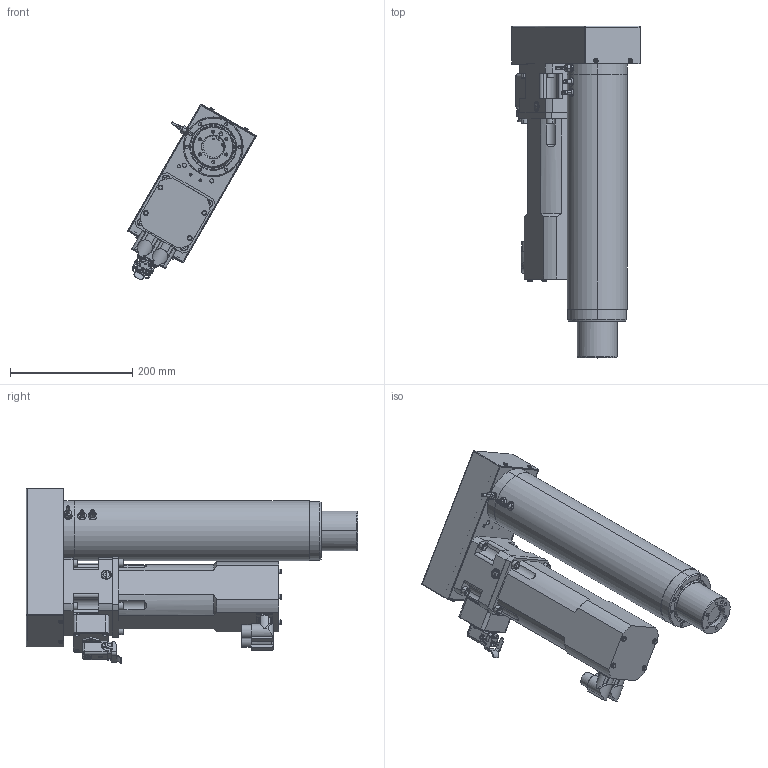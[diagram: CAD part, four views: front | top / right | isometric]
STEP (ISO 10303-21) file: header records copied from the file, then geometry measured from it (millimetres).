
FILE_DESCRIPTION (( 'STEP AP214' ), '1' );
FILE_NAME ('RLWPK010D-020-030SG0.STEP', '2023-04-06T07:27:34', ( '' ), ( '' ), 'SwSTEP 2.0', 'SolidWorks 2021', '' );
FILE_SCHEMA (( 'AUTOMOTIVE_DESIGN' ));
Length unit declared in the file: millimetre
Products named in the file (1): RLWPK010D-020-030SG0
Bounding box: 210.88 x 544 x 287.91 mm (x, y, z)
Volume: 5908444.4 mm3; surface area: 844558.8 mm2
Topology: 35 solids, 35 shells, 2383 faces, 5827 edges, 3601 vertices
Faces by surface type: plane 1006, cylinder 811, cone 301, bspline 209, torus 54, sphere 2
Entity records: 121313 total; most frequent: CARTESIAN_POINT 40189, ORIENTED_EDGE 11334, DIRECTION 11032, EDGE_CURVE 5667, AXIS2_PLACEMENT_3D 4095, VERTEX_POINT 3601, LINE 2842, VECTOR 2842
